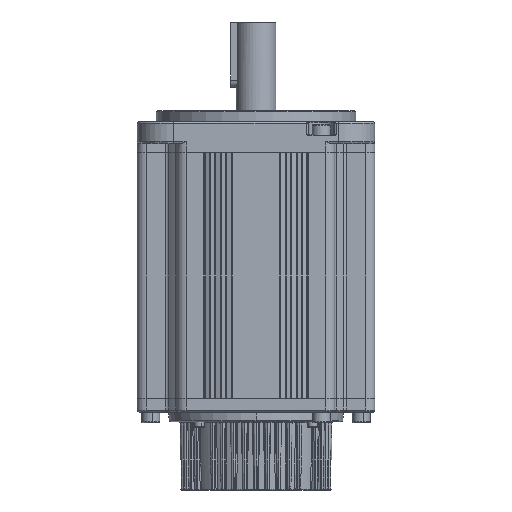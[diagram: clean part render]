
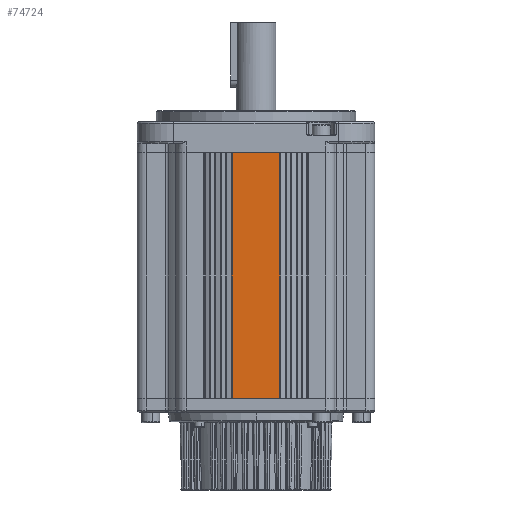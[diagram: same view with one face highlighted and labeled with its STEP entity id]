
A CAD part, front view. The second image highlights one B-rep face of the part: STEP entity #74724.
In plain terms, the highlighted planar face has unit normal (0, -1, 0).
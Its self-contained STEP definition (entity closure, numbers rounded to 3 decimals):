
#1519 = AXIS2_PLACEMENT_3D ( 'NONE', #23050, #101376, #15097 ) ;
#6652 = CARTESIAN_POINT ( 'NONE',  ( -13.2, -65.5, 135.5 ) ) ;
#6840 = LINE ( 'NONE', #6652, #57710 ) ;
#13461 = VECTOR ( 'NONE', #61586, 1000. ) ;
#15097 = DIRECTION ( 'NONE',  ( 0., 0., 1. ) ) ;
#23050 = CARTESIAN_POINT ( 'NONE',  ( 13.5, -65.5, 135.5 ) ) ;
#27002 = FACE_OUTER_BOUND ( 'NONE', #128094, .T. ) ;
#27378 = CARTESIAN_POINT ( 'NONE',  ( 13.5, -65.5, 135.5 ) ) ;
#30901 = VERTEX_POINT ( 'NONE', #71964 ) ;
#39969 = VERTEX_POINT ( 'NONE', #43918 ) ;
#41361 = ORIENTED_EDGE ( 'NONE', *, *, #53258, .T. ) ;
#43918 = CARTESIAN_POINT ( 'NONE',  ( -13.2, -65.5, 0. ) ) ;
#53258 = EDGE_CURVE ( 'NONE', #39969, #30901, #86086, .T. ) ;
#57710 = VECTOR ( 'NONE', #117330, 1000. ) ;
#58112 = VERTEX_POINT ( 'NONE', #86974 ) ;
#61586 = DIRECTION ( 'NONE',  ( 1., 0., 0. ) ) ;
#71194 = ORIENTED_EDGE ( 'NONE', *, *, #116550, .F. ) ;
#71964 = CARTESIAN_POINT ( 'NONE',  ( 13.2, -65.5, 0. ) ) ;
#74724 = ADVANCED_FACE ( 'NONE', ( #27002 ), #132743, .F. ) ;
#82598 = VECTOR ( 'NONE', #114355, 1000. ) ;
#83799 = CARTESIAN_POINT ( 'NONE',  ( 13.2, -65.5, 135.5 ) ) ;
#86086 = LINE ( 'NONE', #92301, #82598 ) ;
#86974 = CARTESIAN_POINT ( 'NONE',  ( -13.2, -65.5, 135.5 ) ) ;
#88824 = LINE ( 'NONE', #27378, #13461 ) ;
#88950 = CARTESIAN_POINT ( 'NONE',  ( 13.2, -65.5, 135.5 ) ) ;
#91593 = VECTOR ( 'NONE', #118528, 1000. ) ;
#92301 = CARTESIAN_POINT ( 'NONE',  ( 13.5, -65.5, 0. ) ) ;
#100631 = ORIENTED_EDGE ( 'NONE', *, *, #132909, .T. ) ;
#101376 = DIRECTION ( 'NONE',  ( 0., 1., 0. ) ) ;
#102521 = VERTEX_POINT ( 'NONE', #88950 ) ;
#114355 = DIRECTION ( 'NONE',  ( 1., 0., 0. ) ) ;
#116550 = EDGE_CURVE ( 'NONE', #58112, #102521, #88824, .T. ) ;
#117330 = DIRECTION ( 'NONE',  ( 0., 0., -1. ) ) ;
#118528 = DIRECTION ( 'NONE',  ( 0., 0., 1. ) ) ;
#124885 = LINE ( 'NONE', #83799, #91593 ) ;
#128094 = EDGE_LOOP ( 'NONE', ( #41361, #137597, #71194, #100631 ) ) ;
#132743 = PLANE ( 'NONE',  #1519 ) ;
#132909 = EDGE_CURVE ( 'NONE', #58112, #39969, #6840, .T. ) ;
#137225 = EDGE_CURVE ( 'NONE', #30901, #102521, #124885, .T. ) ;
#137597 = ORIENTED_EDGE ( 'NONE', *, *, #137225, .T. ) ;
